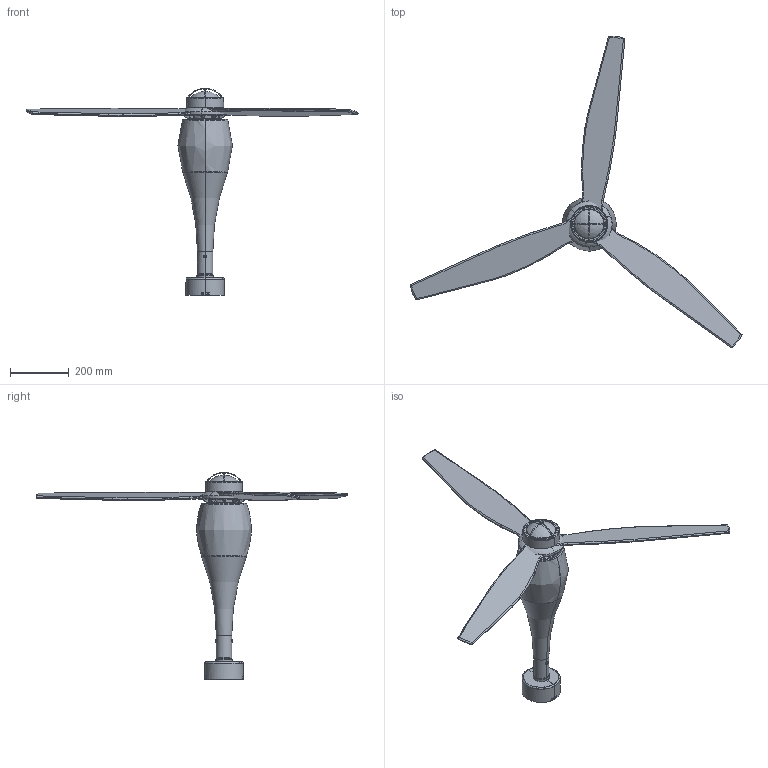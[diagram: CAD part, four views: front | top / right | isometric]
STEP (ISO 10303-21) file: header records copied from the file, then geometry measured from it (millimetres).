
FILE_DESCRIPTION(/* description */ (''),/* implementation_level */ '2;1');
FILE_NAME(/* name */ 'C:\Users\FrancoSartori\Documents\FARO\01_En Proceso\00_ETERFAN LED\03_Publicación\ETERFAN\32003-10.stp',/* time_stamp */ '2021-04-22T11:47:14+02:00',/* author */ ('FrancoSartori'),/* organization */ (''),/* preprocessor_version */ 'ST-DEVELOPER v18.1',/* originating_system */ 'AutoCAD Mechanical',/* authorisation */ '');
FILE_SCHEMA (('AUTOMOTIVE_DESIGN { 1 0 10303 214 3 1 1 }'));
Length unit declared in the file: millimetre
Products named in the file (3): Product; ETERFAN - FAN-218795-Export; 33390_33391LigKIT - LT-218794-Export
Assembly tree (2 placements, depth 2):
  Product
    ETERFAN - FAN-218795-Export
    33390_33391LigKIT - LT-218794-Export
Bounding box: 1127.17 x 1058.55 x 703.98 mm (x, y, z)
Volume: 3504062.7 mm3; surface area: 1082666.6 mm2
Topology: 25 solids, 26 shells, 759 faces, 1909 edges, 1198 vertices
Faces by surface type: cylinder 235, plane 233, torus 175, bspline 74, cone 34, sphere 8
Entity records: 33889 total; most frequent: CARTESIAN_POINT 17157, ORIENTED_EDGE 3730, DIRECTION 2915, EDGE_CURVE 1909, VERTEX_POINT 1198, AXIS2_PLACEMENT_3D 1152, B_SPLINE_CURVE_WITH_KNOTS 834, EDGE_LOOP 827
